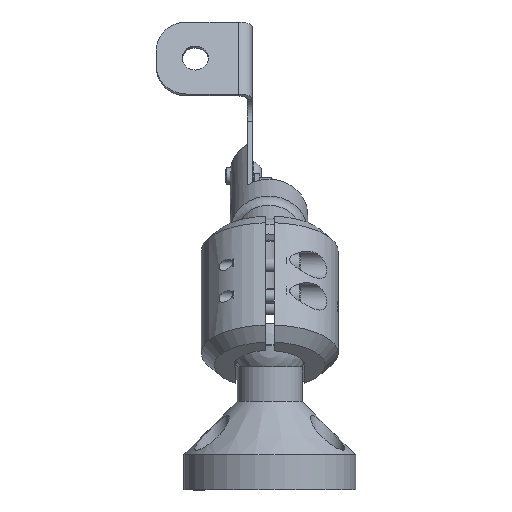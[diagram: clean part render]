
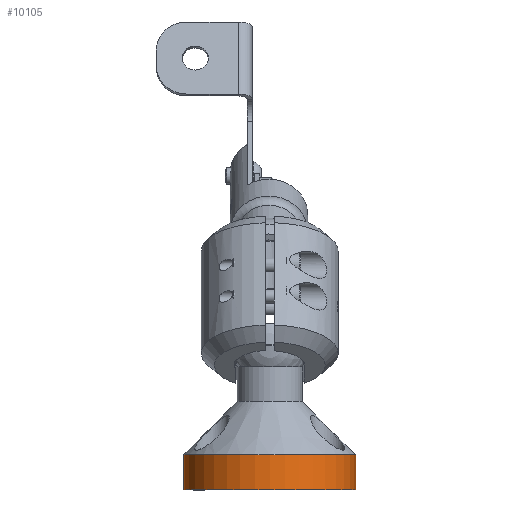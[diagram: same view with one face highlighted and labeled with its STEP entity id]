
A CAD part, left-side view. The second image highlights one B-rep face of the part: STEP entity #10105.
In plain terms, the highlighted cylindrical face has radius 31.559 mm (diameter 63.119 mm), a partial arc.
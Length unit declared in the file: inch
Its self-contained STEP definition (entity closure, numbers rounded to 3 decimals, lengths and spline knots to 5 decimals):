
#1732 = CARTESIAN_POINT ( 'NONE',  ( -0.00266, -0.255, 0. ) ) ;
#1956 = EDGE_CURVE ( 'NONE', #42306, #30671, #29576, .T. ) ;
#4872 = VECTOR ( 'NONE', #38802, 39.37008 ) ;
#5680 = CARTESIAN_POINT ( 'NONE',  ( 1.165, -0.255, -0.42471 ) ) ;
#6005 = ORIENTED_EDGE ( 'NONE', *, *, #42886, .F. ) ;
#6134 = EDGE_LOOP ( 'NONE', ( #30751, #22174, #6005, #35529 ) ) ;
#6376 = LINE ( 'NONE', #17316, #15054 ) ;
#8079 = DIRECTION ( 'NONE',  ( 0., 1., 0. ) ) ;
#8921 = EDGE_CURVE ( 'NONE', #32929, #30671, #15749, .T. ) ;
#10105 = ADVANCED_FACE ( 'NONE', ( #35014 ), #38096, .T. ) ;
#11796 = DIRECTION ( 'NONE',  ( 0., 0., 1. ) ) ;
#15054 = VECTOR ( 'NONE', #29831, 39.37008 ) ;
#15749 = CIRCLE ( 'NONE', #41684, 1.2425 ) ;
#16354 = DIRECTION ( 'NONE',  ( 0., 0., 1. ) ) ;
#17316 = CARTESIAN_POINT ( 'NONE',  ( 1.165, -0.255, 0.42471 ) ) ;
#18923 = CIRCLE ( 'NONE', #30155, 1.2425 ) ;
#19473 = CARTESIAN_POINT ( 'NONE',  ( 1.165, -0.255, 0.42471 ) ) ;
#22174 = ORIENTED_EDGE ( 'NONE', *, *, #1956, .F. ) ;
#22959 = CARTESIAN_POINT ( 'NONE',  ( 1.165, 0.255, 0.42471 ) ) ;
#24668 = EDGE_CURVE ( 'NONE', #37641, #32929, #6376, .T. ) ;
#24784 = CARTESIAN_POINT ( 'NONE',  ( -0.00266, -0.255, 0. ) ) ;
#27421 = DIRECTION ( 'NONE',  ( 0., 0., 1. ) ) ;
#29576 = LINE ( 'NONE', #32412, #4872 ) ;
#29831 = DIRECTION ( 'NONE',  ( 0., 1., 0. ) ) ;
#30155 = AXIS2_PLACEMENT_3D ( 'NONE', #24784, #34428, #27421 ) ;
#30671 = VERTEX_POINT ( 'NONE', #38438 ) ;
#30751 = ORIENTED_EDGE ( 'NONE', *, *, #8921, .T. ) ;
#32412 = CARTESIAN_POINT ( 'NONE',  ( 1.165, -0.255, -0.42471 ) ) ;
#32565 = AXIS2_PLACEMENT_3D ( 'NONE', #1732, #8079, #11796 ) ;
#32929 = VERTEX_POINT ( 'NONE', #22959 ) ;
#34428 = DIRECTION ( 'NONE',  ( 0., -1., 0. ) ) ;
#35014 = FACE_OUTER_BOUND ( 'NONE', #6134, .T. ) ;
#35529 = ORIENTED_EDGE ( 'NONE', *, *, #24668, .T. ) ;
#35634 = CARTESIAN_POINT ( 'NONE',  ( -0.00266, 0.255, 0. ) ) ;
#37641 = VERTEX_POINT ( 'NONE', #19473 ) ;
#38096 = CYLINDRICAL_SURFACE ( 'NONE', #32565, 1.2425 ) ;
#38438 = CARTESIAN_POINT ( 'NONE',  ( 1.165, 0.255, -0.42471 ) ) ;
#38802 = DIRECTION ( 'NONE',  ( 0., 1., 0. ) ) ;
#40258 = DIRECTION ( 'NONE',  ( 0., -1., 0. ) ) ;
#41684 = AXIS2_PLACEMENT_3D ( 'NONE', #35634, #40258, #16354 ) ;
#42306 = VERTEX_POINT ( 'NONE', #5680 ) ;
#42886 = EDGE_CURVE ( 'NONE', #37641, #42306, #18923, .T. ) ;
